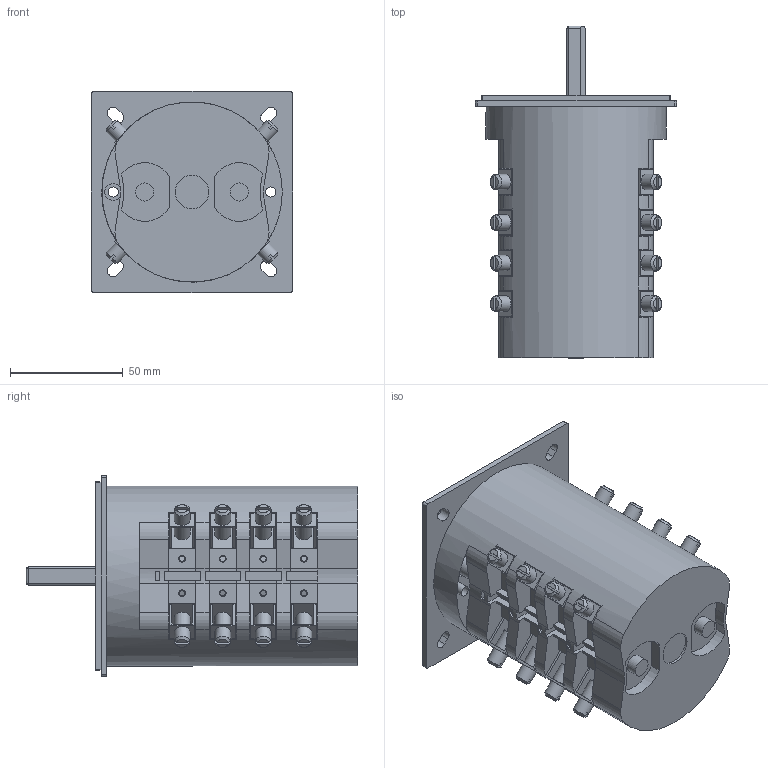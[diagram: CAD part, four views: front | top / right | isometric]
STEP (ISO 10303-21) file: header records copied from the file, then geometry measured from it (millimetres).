
FILE_DESCRIPTION(/* description */ (''),/* implementation_level */ '2;1');
FILE_NAME(/* name */ '4G80-U_4_korpusy.stp',/* time_stamp */ '2021-07-22T07:14:10+02:00',/* author */ (''),/* organization */ (''),/* preprocessor_version */ 'ST-DEVELOPER v18.1',/* originating_system */ 'SIEMENS PLM Software NX 1965',/* authorisation */ '');
FILE_SCHEMA (('AUTOMOTIVE_DESIGN { 1 0 10303 214 3 1 1 1 }'));
Length unit declared in the file: millimetre
Products named in the file (1): 4G80-U_4_korpusy_stp
Bounding box: 89.2 x 147.25 x 89.2 mm (x, y, z)
Volume: 494815.7 mm3; surface area: 91548.8 mm2
Topology: 1 solids, 25 shells, 805 faces, 2078 edges, 1383 vertices
Faces by surface type: plane 572, cylinder 182, cone 48, bspline 3
Full cylindrical faces by diameter (mm): 2.5 x16, 4.5 x2, 7 x32, 7.5 x2, 8 x4, 8.5 x2, 11.6 x2, 12 x3, 15 x1, 80 x1
Entity records: 24804 total; most frequent: CARTESIAN_POINT 5569, DIRECTION 3897, ORIENTED_EDGE 3862, EDGE_CURVE 1931, LINE 1367, VECTOR 1367, VERTEX_POINT 1324, AXIS2_PLACEMENT_3D 1265
